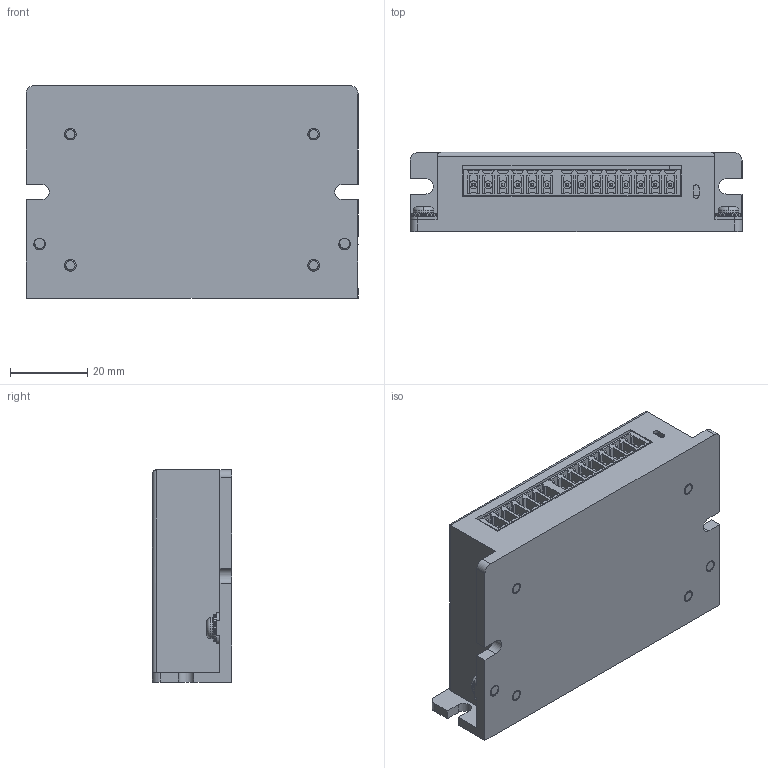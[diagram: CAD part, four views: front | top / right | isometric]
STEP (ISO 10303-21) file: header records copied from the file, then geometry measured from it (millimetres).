
FILE_DESCRIPTION( ('This file contains a STEP AP42 implementation' ,'as created by ZW3D STEP Interface translator.' ,'') ,'2;1' );
FILE_NAME( 'WM416.stp' ,'26 117.102730', (''), ('ZWCAD Software Co.'), 'Version 1.0', 'ZW3D to STEP translator', '' );
FILE_SCHEMA(('AUTOMOTIVE_DESIGN { 1 0 10303 214 1 1 1 1 }'));
Length unit declared in the file: millimetre
Products named in the file (1): 0
Bounding box: 86 x 20.5 x 55 mm (x, y, z)
Volume: 33274.6 mm3; surface area: 37879.6 mm2
Topology: 1 solids, 5 shells, 1173 faces, 3052 edges, 1963 vertices
Faces by surface type: plane 954, cylinder 175, cone 24, torus 16, bspline 4
Entity records: 42752 total; most frequent: CARTESIAN_POINT 12861, ORIENTED_EDGE 6104, DIRECTION 5553, EDGE_CURVE 3052, VECTOR 2551, LINE 2551, VERTEX_POINT 1963, AXIS2_PLACEMENT_3D 1501
